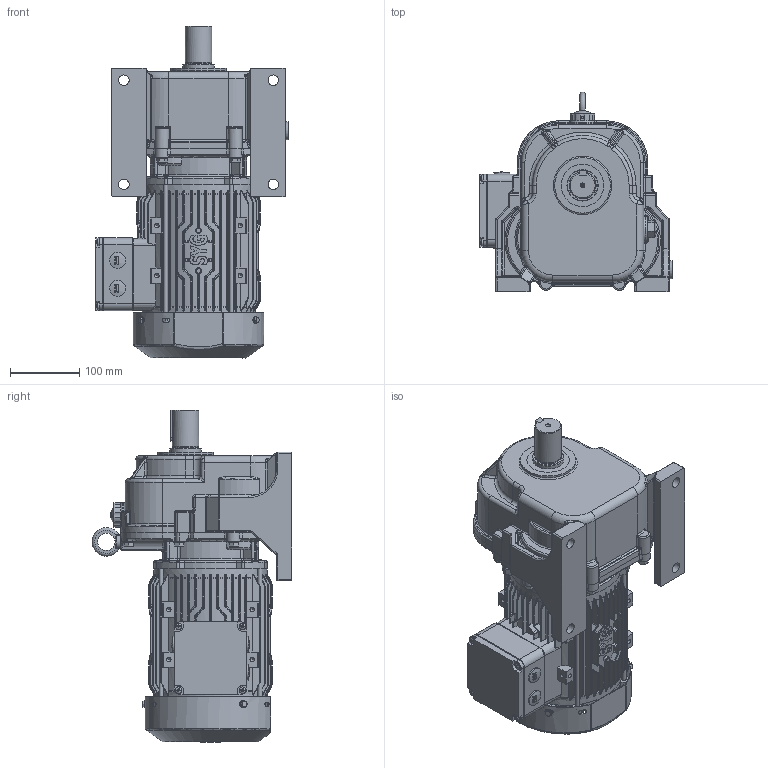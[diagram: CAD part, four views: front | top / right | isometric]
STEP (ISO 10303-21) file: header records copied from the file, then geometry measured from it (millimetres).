
FILE_DESCRIPTION(/* description */ (''),/* implementation_level */ '2;1');
FILE_NAME(/* name */ 'D:\▼ 3D：MG\01. 내부 직접 검토품\MG 153\외형도용 - ASS''Y\SK2\MG1530A - OUTLINE (SK2，HT，1.5kW).stp',/* time_stamp */ '2026-04-13T14:45:20+09:00',/* author */ ('이정훈'),/* organization */ (''),/* preprocessor_version */ 'ST-DEVELOPER v18.1',/* originating_system */ 'Autodesk Inventor 2022',/* authorisation */ '');
FILE_SCHEMA (('AUTOMOTIVE_DESIGN { 1 0 10303 214 3 1 1 }','MODEL_BASED_INTEGRATED_MANUFACTURING_SCHEMA'));
Products named in the file (1): MG1530A - OUTLINE (SK2，HT，1.5kW
)
Bounding box: 276.9 x 287.5 x 477.8 mm (x, y, z)
Volume: 11523482.3 mm3; surface area: 714185.6 mm2
Topology: 5 solids, 5 shells, 4948 faces, 12823 edges, 7909 vertices
Faces by surface type: plane 2028, cylinder 1352, bspline 964, cone 274, torus 227, sphere 103
Full cylindrical faces by diameter (mm): 2 x2, 3 x2, 3.504 x1, 4 x1, 4.8 x3, 5 x3, 6 x12, 8 x8, 9.5 x12, 10 x1, 10.5 x3, 13 x2, 13.097 x1, 15 x4, 23 x3, 25 x2, 26 x2, 26.194 x1, 37 x1, 37.4 x1, 38 x2, 45 x1, 52 x1, 80 x1, 101 x1, 105 x1, 163 x2
Entity records: 205428 total; most frequent: CARTESIAN_POINT 88292, ORIENTED_EDGE 25494, DIRECTION 23172, EDGE_CURVE 12747, AXIS2_PLACEMENT_3D 8642, VERTEX_POINT 7921, LINE 5888, VECTOR 5888
